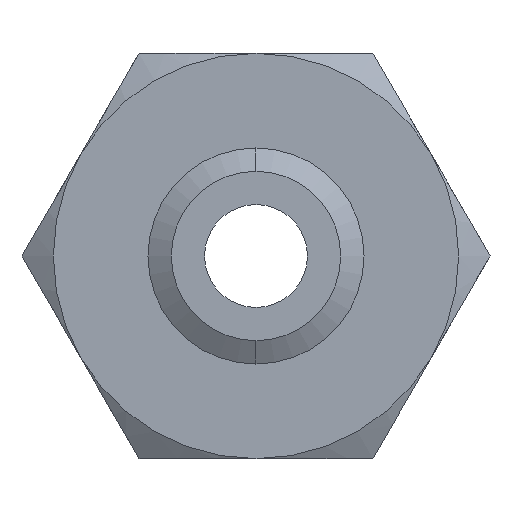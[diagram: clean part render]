
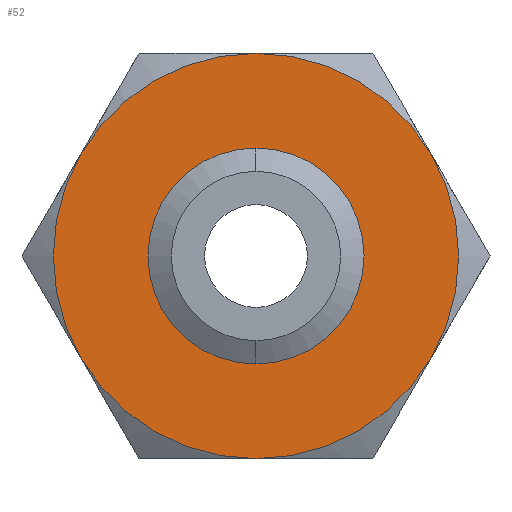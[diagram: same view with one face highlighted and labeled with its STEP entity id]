
A CAD part, front view. The second image highlights one B-rep face of the part: STEP entity #52.
In plain terms, the highlighted planar face has unit normal (0, -1, 0).
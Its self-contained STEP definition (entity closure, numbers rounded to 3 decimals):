
#41 = ORIENTED_EDGE ( 'NONE', *, *, #65, .F. ) ;
#45 = EDGE_CURVE ( 'NONE', #68, #60, #492, .T. ) ;
#46 = EDGE_CURVE ( 'NONE', #49, #68, #487, .T. ) ;
#47 = ORIENTED_EDGE ( 'NONE', *, *, #46, .F. ) ;
#48 = ORIENTED_EDGE ( 'NONE', *, *, #72, .F. ) ;
#49 = VERTEX_POINT ( 'NONE', #546 ) ;
#51 = ORIENTED_EDGE ( 'NONE', *, *, #45, .F. ) ;
#52 = ADVANCED_FACE ( 'NONE', ( #541, #540 ), #539, .F. ) ;
#59 = ORIENTED_EDGE ( 'NONE', *, *, #102, .F. ) ;
#60 = VERTEX_POINT ( 'NONE', #526 ) ;
#62 = VERTEX_POINT ( 'NONE', #522 ) ;
#65 = EDGE_CURVE ( 'NONE', #62, #71, #517, .T. ) ;
#68 = VERTEX_POINT ( 'NONE', #573 ) ;
#71 = VERTEX_POINT ( 'NONE', #572 ) ;
#72 = EDGE_CURVE ( 'NONE', #71, #49, #571, .T. ) ;
#79 = ORIENTED_EDGE ( 'NONE', *, *, #81, .F. ) ;
#81 = EDGE_CURVE ( 'NONE', #1939, #1916, #557, .T. ) ;
#83 = ORIENTED_EDGE ( 'NONE', *, *, #1945, .F. ) ;
#86 = EDGE_LOOP ( 'NONE', ( #83, #79 ) ) ;
#90 = ORIENTED_EDGE ( 'NONE', *, *, #91, .F. ) ;
#91 = EDGE_CURVE ( 'NONE', #60, #92, #600, .T. ) ;
#92 = VERTEX_POINT ( 'NONE', #595 ) ;
#101 = EDGE_LOOP ( 'NONE', ( #51, #47, #48, #41, #59, #90 ) ) ;
#102 = EDGE_CURVE ( 'NONE', #92, #62, #639, .T. ) ;
#485 = CARTESIAN_POINT ( 'NONE',  ( 0., 0., 0. ) ) ;
#486 = AXIS2_PLACEMENT_3D ( 'NONE', #485, #548, #547 ) ;
#487 = CIRCLE ( 'NONE', #486, 37.5 ) ;
#488 = DIRECTION ( 'NONE',  ( 0., 0., 1. ) ) ;
#489 = DIRECTION ( 'NONE',  ( 0., 1., 0. ) ) ;
#490 = CARTESIAN_POINT ( 'NONE',  ( 0., 0., 0. ) ) ;
#491 = AXIS2_PLACEMENT_3D ( 'NONE', #490, #489, #488 ) ;
#492 = CIRCLE ( 'NONE', #491, 37.5 ) ;
#517 = CIRCLE ( 'NONE', #581, 37.5 ) ;
#522 = CARTESIAN_POINT ( 'NONE',  ( 0., 0., -37.5 ) ) ;
#526 = CARTESIAN_POINT ( 'NONE',  ( 32.476, 0., 18.75 ) ) ;
#535 = DIRECTION ( 'NONE',  ( 0., 0., 1. ) ) ;
#536 = DIRECTION ( 'NONE',  ( 0., 1., 0. ) ) ;
#537 = CARTESIAN_POINT ( 'NONE',  ( 21.651, 0., -37.5 ) ) ;
#538 = AXIS2_PLACEMENT_3D ( 'NONE', #537, #536, #535 ) ;
#539 = PLANE ( 'NONE',  #538 ) ;
#540 = FACE_BOUND ( 'NONE', #86, .T. ) ;
#541 = FACE_OUTER_BOUND ( 'NONE', #101, .T. ) ;
#546 = CARTESIAN_POINT ( 'NONE',  ( -32.476, 0., 18.75 ) ) ;
#547 = DIRECTION ( 'NONE',  ( 0., 0., 1. ) ) ;
#548 = DIRECTION ( 'NONE',  ( 0., 1., 0. ) ) ;
#549 = DIRECTION ( 'NONE',  ( 0., 0., -1. ) ) ;
#550 = DIRECTION ( 'NONE',  ( 0., -1., 0. ) ) ;
#551 = CARTESIAN_POINT ( 'NONE',  ( 0., 0., 0. ) ) ;
#552 = AXIS2_PLACEMENT_3D ( 'NONE', #551, #550, #549 ) ;
#557 = CIRCLE ( 'NONE', #552, 15.67 ) ;
#567 = DIRECTION ( 'NONE',  ( 0., 0., 1. ) ) ;
#568 = DIRECTION ( 'NONE',  ( 0., 1., 0. ) ) ;
#569 = CARTESIAN_POINT ( 'NONE',  ( 0., 0., 0. ) ) ;
#570 = AXIS2_PLACEMENT_3D ( 'NONE', #569, #568, #567 ) ;
#571 = CIRCLE ( 'NONE', #570, 37.5 ) ;
#572 = CARTESIAN_POINT ( 'NONE',  ( -32.476, 0., -18.75 ) ) ;
#573 = CARTESIAN_POINT ( 'NONE',  ( 0., 0., 37.5 ) ) ;
#578 = DIRECTION ( 'NONE',  ( 0., 0., 1. ) ) ;
#579 = DIRECTION ( 'NONE',  ( 0., 1., 0. ) ) ;
#580 = CARTESIAN_POINT ( 'NONE',  ( 0., 0., 0. ) ) ;
#581 = AXIS2_PLACEMENT_3D ( 'NONE', #580, #579, #578 ) ;
#595 = CARTESIAN_POINT ( 'NONE',  ( 32.476, 0., -18.75 ) ) ;
#596 = DIRECTION ( 'NONE',  ( 0., 0., 1. ) ) ;
#597 = DIRECTION ( 'NONE',  ( 0., 1., 0. ) ) ;
#598 = CARTESIAN_POINT ( 'NONE',  ( 0., 0., 0. ) ) ;
#599 = AXIS2_PLACEMENT_3D ( 'NONE', #598, #597, #596 ) ;
#600 = CIRCLE ( 'NONE', #599, 37.5 ) ;
#635 = DIRECTION ( 'NONE',  ( 0., 0., 1. ) ) ;
#636 = DIRECTION ( 'NONE',  ( 0., 1., 0. ) ) ;
#637 = CARTESIAN_POINT ( 'NONE',  ( 0., 0., 0. ) ) ;
#638 = AXIS2_PLACEMENT_3D ( 'NONE', #637, #636, #635 ) ;
#639 = CIRCLE ( 'NONE', #638, 37.5 ) ;
#1499 = CARTESIAN_POINT ( 'NONE',  ( 0., 0., -15.67 ) ) ;
#1524 = CARTESIAN_POINT ( 'NONE',  ( 0., 0., 15.67 ) ) ;
#1573 = DIRECTION ( 'NONE',  ( 0., 0., -1. ) ) ;
#1574 = DIRECTION ( 'NONE',  ( 0., -1., 0. ) ) ;
#1575 = CARTESIAN_POINT ( 'NONE',  ( 0., 0., 0. ) ) ;
#1576 = AXIS2_PLACEMENT_3D ( 'NONE', #1575, #1574, #1573 ) ;
#1577 = CIRCLE ( 'NONE', #1576, 15.67 ) ;
#1916 = VERTEX_POINT ( 'NONE', #1499 ) ;
#1939 = VERTEX_POINT ( 'NONE', #1524 ) ;
#1945 = EDGE_CURVE ( 'NONE', #1916, #1939, #1577, .T. ) ;
